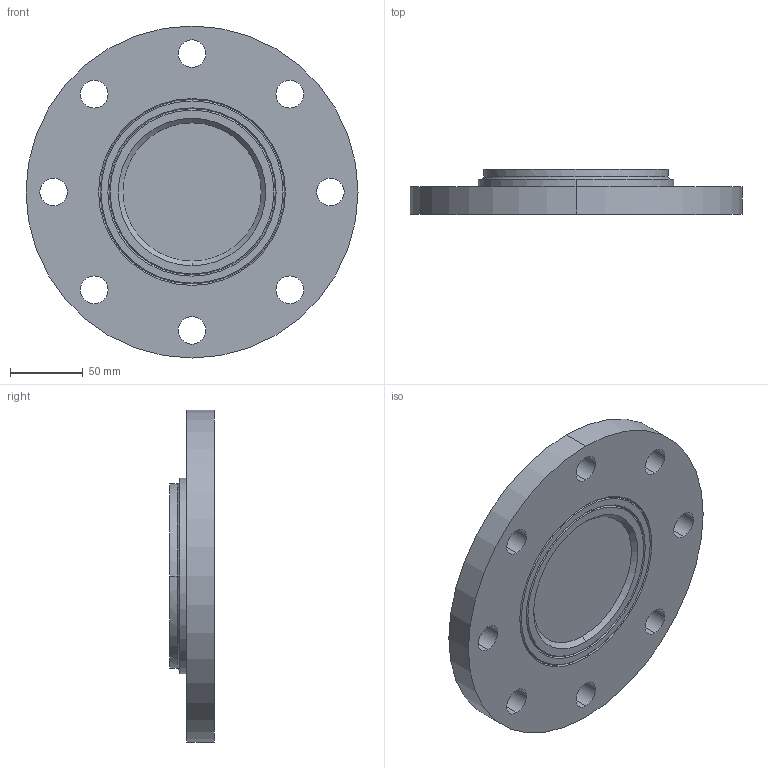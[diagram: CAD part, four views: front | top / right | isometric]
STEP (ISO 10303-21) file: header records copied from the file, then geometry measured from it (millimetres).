
FILE_DESCRIPTION (( 'STEP AP203' ), '1' );
FILE_NAME ('18019001.STEP', '2013-10-25T13:08:54', ( 'eb' ), ( '' ), 'SwSTEP 2.0', 'SolidWorks 2013', '' );
FILE_SCHEMA (( 'CONFIG_CONTROL_DESIGN' ));
Length unit declared in the file: inch
Products named in the file (1): 18019001
Bounding box: 228.6 x 30.91 x 228.6 mm (x, y, z)
Volume: 872226.9 mm3; surface area: 105764.3 mm2
Topology: 1 solids, 1 shells, 42 faces, 102 edges, 66 vertices
Faces by surface type: cylinder 22, cone 12, plane 6, bspline 2
Entity records: 1713 total; most frequent: CARTESIAN_POINT 581, DIRECTION 236, ORIENTED_EDGE 204, EDGE_CURVE 102, AXIS2_PLACEMENT_3D 101, VERTEX_POINT 66, EDGE_LOOP 62, CIRCLE 60
